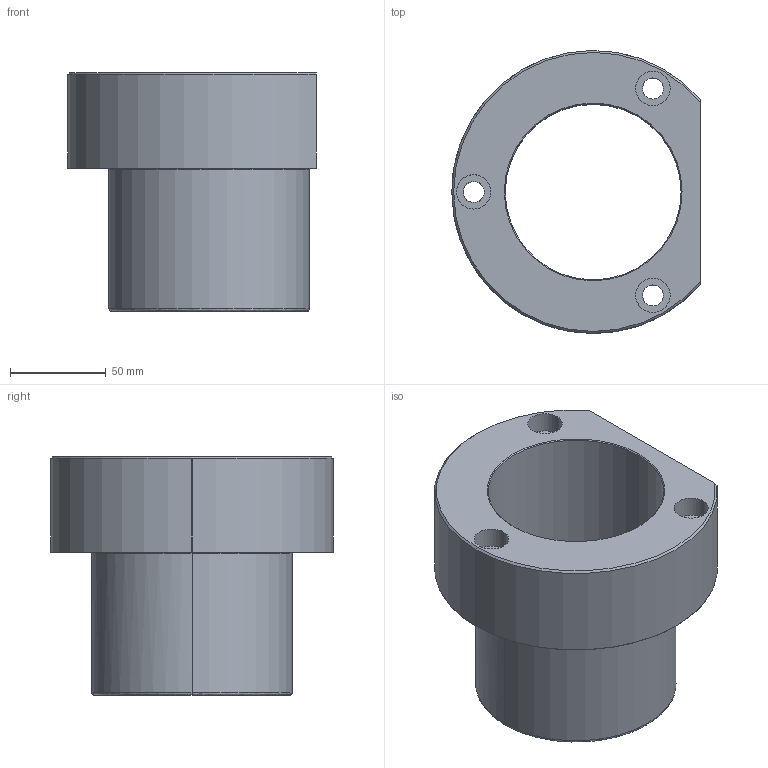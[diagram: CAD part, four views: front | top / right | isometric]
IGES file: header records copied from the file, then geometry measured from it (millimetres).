
Start section: START RECORD GO HERE.
Global section: file name: 737-80.igs; native system: DASSAULT SYSTEMES CATIA V5 R20 - www.3ds.com; preprocessor: CATIA Version 5 Release 20 ; author: Utente; organization: NB04-ASUS; date: 20210117.175743; units: millimetre
Bounding box: 130 x 147.99 x 125 mm (x, y, z)
Surface area: 107671.4 mm2 (no closed solid volume)
Topology: 0 solids, 0 shells, 37 faces, 164 edges, 164 vertices
Faces by surface type: revolution 30, plane 7
